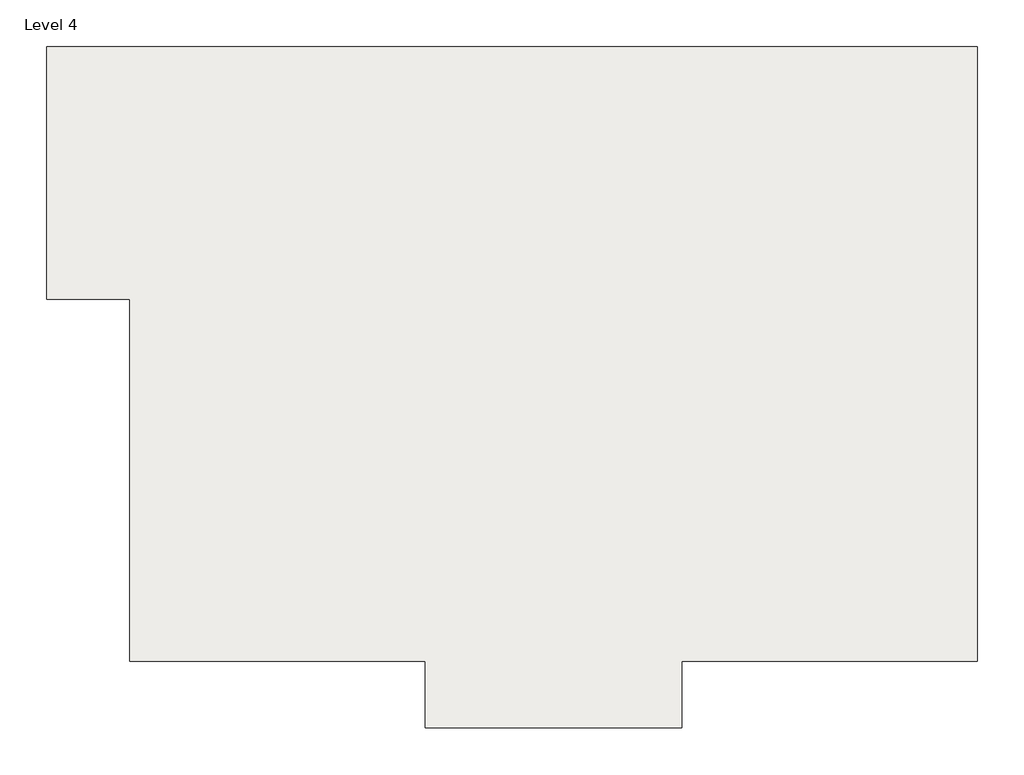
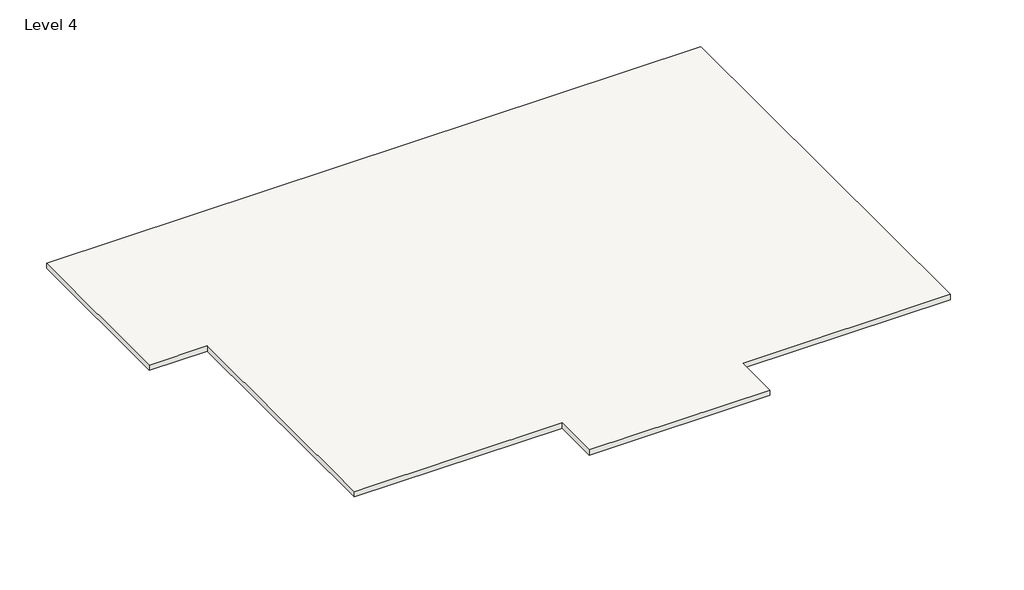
# One storey: 1 roof.
"""IFC4 building model written with IfcOpenShell, lengths in millimetres."""

import ifcopenshell
import ifcopenshell.guid

model = None  # the IFC model being written
_history = None  # IfcOwnerHistory: only IFC2X3 demands one
_inside = {}  # id of a spatial element -> (the spatial element, [elements in it])
_under = {}  # id of a project, library or spatial element -> (it, [spatial elements below it])
_declared = {}  # id of a project -> (the project, [libraries it declares])
_typed = {}  # id of a type object -> (the type object, [elements of that type])
_made_of = {}  # id of a material, layer set ... -> (it, [elements and type objects made of it])


def new_model(schema):
    """Start an empty IFC model of exactly this schema.

    Asked for "IFC4X3", IfcOpenShell would pick the latest addendum, in which some entities
    have other attributes; the version numbers below select the first issue.
    IFC2X3 requires an IfcOwnerHistory on every rooted entity: one is made here for all.
    """
    global model, _history
    if schema == "IFC4X3":
        model = ifcopenshell.file(schema_version=(4, 3, 0, 0))
    else:
        model = ifcopenshell.file(schema=schema)
    _inside.clear()
    _under.clear()
    _declared.clear()
    _typed.clear()
    _made_of.clear()
    _history = None
    if model.schema == "IFC2X3":
        org = make("IfcOrganization", Name="unknown")
        user = make(
            "IfcPersonAndOrganization",
            ThePerson=make("IfcPerson", FamilyName="unknown"),
            TheOrganization=org,
        )
        app = make(
            "IfcApplication",
            ApplicationDeveloper=org,
            Version="unknown",
            ApplicationFullName="unknown",
            ApplicationIdentifier="unknown",
        )
        _history = make(
            "IfcOwnerHistory",
            OwningUser=user,
            OwningApplication=app,
            ChangeAction="ADDED",
            CreationDate=0,
        )
    return model


def make(cls, **values):
    """One entity of the class cls with the attributes given. An attribute that is None is left unset."""
    return model.create_entity(
        cls, **{name: value for name, value in values.items() if value is not None}
    )


def rooted(cls, **values):
    """An entity with a GlobalId (a new one), such as an element, a storey or a relation."""
    return make(cls, GlobalId=ifcopenshell.guid.new(), OwnerHistory=_history, **values)


def si_unit(unit_type, name, prefix=None):
    """IfcSIUnit, for example si_unit("LENGTHUNIT", "METRE", prefix="MILLI")."""
    return make("IfcSIUnit", UnitType=unit_type, Prefix=prefix, Name=name)


def assignment(units):
    """IfcUnitAssignment: the units of a project."""
    return None if units is None else make("IfcUnitAssignment", Units=units)


def point(xyz):
    """IfcCartesianPoint."""
    return None if xyz is None else make("IfcCartesianPoint", Coordinates=xyz)


def direction(xyz):
    """IfcDirection."""
    return None if xyz is None else make("IfcDirection", DirectionRatios=xyz)


def frame(location, z_axis=None, x_axis=None):
    """IfcAxis2Placement3D, a coordinate frame: its origin and axes. An axis left out is left unset."""
    return make(
        "IfcAxis2Placement3D",
        Location=point(location),
        Axis=direction(z_axis),
        RefDirection=direction(x_axis),
    )


def origin():
    """The frame at (0, 0, 0) with its axes left unset."""
    return frame((0.0, 0.0, 0.0))


def place(relative_to, where):
    """IfcLocalPlacement: puts the frame where relative to a parent placement (None: the world)."""
    return make(
        "IfcLocalPlacement", PlacementRelTo=relative_to, RelativePlacement=where
    )


def context(
    kind, dimensions, precision=None, world=None, true_north=None, identifier=None
):
    """IfcGeometricRepresentationContext, for example the 3D "Model" context."""
    return make(
        "IfcGeometricRepresentationContext",
        ContextIdentifier=identifier,
        ContextType=kind,
        CoordinateSpaceDimension=dimensions,
        Precision=precision,
        WorldCoordinateSystem=world,
        TrueNorth=true_north,
    )


def project(units=None, contexts=None):
    """IfcProject with its units and contexts."""
    return rooted(
        "IfcProject",
        Name="project",
        RepresentationContexts=contexts,
        UnitsInContext=assignment(units),
    )


def spatial(cls, under=None, at=None, **own):
    """A site, building, storey or space (cls), placed at a placement, below another one or the project."""
    s = rooted(cls, ObjectPlacement=at, **own)
    if under is not None:
        _under.setdefault(under.id(), (under, []))[1].append(s)
    return s


def polyline(points):
    """IfcPolyline through the points."""
    return make("IfcPolyline", Points=[point(p) for p in points])


def outline(outer, holes=None, kind="AREA"):
    """IfcArbitraryClosedProfileDef: a profile drawn as a closed curve; with holes, ...WithVoids."""
    if holes is None:
        return make("IfcArbitraryClosedProfileDef", ProfileType=kind, OuterCurve=outer)
    return make(
        "IfcArbitraryProfileDefWithVoids",
        ProfileType=kind,
        OuterCurve=outer,
        InnerCurves=holes,
    )


def extrude(swept, where, along, depth):
    """IfcExtrudedAreaSolid: the profile swept, set in the frame where, extruded along a direction by depth."""
    return make(
        "IfcExtrudedAreaSolid",
        SweptArea=swept,
        Position=where,
        ExtrudedDirection=direction(along),
        Depth=depth,
    )


def shape(context_of_items, identifier, shape_type, items):
    """IfcShapeRepresentation: the items that make up one representation, for example the "Body"."""
    return make(
        "IfcShapeRepresentation",
        ContextOfItems=context_of_items,
        RepresentationIdentifier=identifier,
        RepresentationType=shape_type,
        Items=items,
    )


def made_of(thing, what):
    """Note that an element or type object is made of a material, layer set ...; save() writes the relation."""
    if what is not None:
        _made_of.setdefault(what.id(), (what, []))[1].append(thing)
    return thing


def element(
    cls,
    number,
    at=None,
    inside=None,
    cuts=None,
    type_object=None,
    material=None,
    context=None,
    identifier="Body",
    shape_type=None,
    held_by="IfcProductDefinitionShape",
    body=None,
    shapes=None,
    **own,
):
    """One element of the class cls, such as IfcWall. Its Tag is "e" and its number.

    at: its placement. inside: the storey or other place that contains it. cuts: it is an
    opening in that element (IfcRelVoidsElement). A single representation is given by context,
    identifier, shape_type and body (its items); several are given by shapes. held_by: the class
    of the entity that holds the representations. save() writes the other relations.
    """
    e = rooted(cls, Tag="e%d" % number, ObjectPlacement=at, **own)
    if body is not None:
        shapes = [shape(context, identifier, shape_type, body)]
    if shapes is not None:
        e.Representation = make(held_by, Representations=shapes)
    if inside is not None:
        _inside.setdefault(inside.id(), (inside, []))[1].append(e)
    if cuts is not None:
        rooted(
            "IfcRelVoidsElement", RelatingBuildingElement=cuts, RelatedOpeningElement=e
        )
    if type_object is not None:
        _typed.setdefault(type_object.id(), (type_object, []))[1].append(e)
    return made_of(e, material)


def aggregate(whole, parts):
    """IfcRelAggregates: a whole, such as a stair, and the parts it consists of."""
    return rooted("IfcRelAggregates", RelatingObject=whole, RelatedObjects=parts)


def save(model, path):
    """Write the relations noted so far, then the file.

    IfcRelAggregates (storeys below a building ...), IfcRelContainedInSpatialStructure (elements
    in a storey), IfcRelDefinesByType, IfcRelAssociatesMaterial and IfcRelDeclares: one each for
    every whole, place, type object, material and project.
    """
    for whole, parts in _under.values():
        aggregate(whole, parts)
    for where, things in _inside.values():
        rooted(
            "IfcRelContainedInSpatialStructure",
            RelatedElements=things,
            RelatingStructure=where,
        )
    for kind, things in _typed.values():
        rooted("IfcRelDefinesByType", RelatedObjects=things, RelatingType=kind)
    for what, things in _made_of.values():
        rooted("IfcRelAssociatesMaterial", RelatedObjects=things, RelatingMaterial=what)
    for by, libraries in _declared.values():
        rooted("IfcRelDeclares", RelatingContext=by, RelatedDefinitions=libraries)
    model.write(path)


model = new_model("IFC4")

# Units and contexts
model_context = context("Model", 3, world=origin())
ifc_project = project(units=[si_unit("LENGTHUNIT", "METRE", prefix="MILLI")], contexts=[model_context])

# Site, building, storey
site = spatial("IfcSite", under=ifc_project)
building = spatial("IfcBuilding", under=site)
storey = spatial("IfcBuildingStorey", under=building, Name="Level 4", Elevation=9144.0)

# Roof
placement = place(None, origin())
element("IfcRoof", 1, ObjectType="Generic - 12\"", at=placement, inside=storey, context=model_context, shape_type="SweptSolid", body=[
    extrude(outline(polyline([(-19703.692382, -6957.1766396), (-19703.692382, 7219.1983604), (-22954.892382, 7219.1983604), (-22954.892382, 17128.3733604), (13525.857618, 17128.3733604), (13525.857618, -6957.1766396), (1940.282618, -6957.1766396), (1940.282618, -9576.5516396), (-8118.117382, -9576.5516396), (-8118.117382, -6957.1766396), (-19703.692382, -6957.1766396)])), frame((0.0, 0.0, 9144.0), z_axis=(0.0, 0.0, 1.0), x_axis=(1.0, 0.0, 0.0)), (0.0, 0.0, 1.0), 304.8),
])

save(model, "model.ifc")
